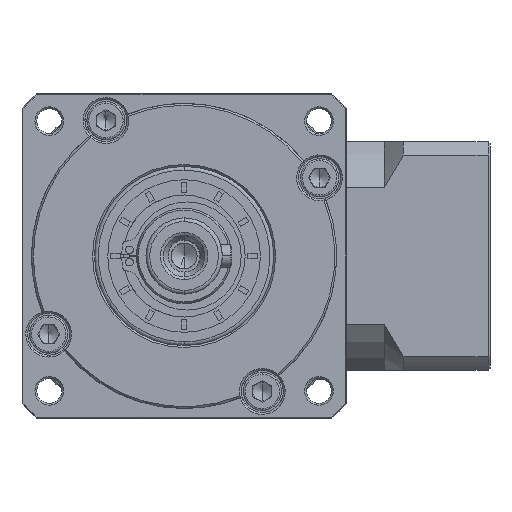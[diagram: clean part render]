
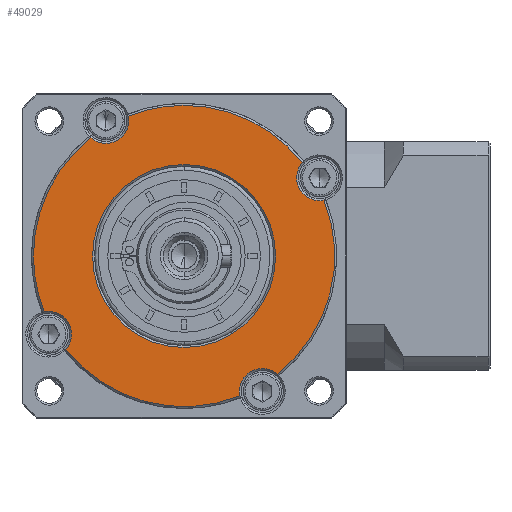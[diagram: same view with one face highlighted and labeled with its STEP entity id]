
A CAD part, left-side view. The second image highlights one B-rep face of the part: STEP entity #49029.
In plain terms, the highlighted planar face has unit normal (-1, 0, 0).
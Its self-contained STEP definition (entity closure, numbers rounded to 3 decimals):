
#1847 = DIRECTION ( 'NONE',  ( 0., 1., 0. ) ) ;
#3222 = CARTESIAN_POINT ( 'NONE',  ( -126.92, 30.497, -84.869 ) ) ;
#3753 = VERTEX_POINT ( 'NONE', #92476 ) ;
#4081 = ORIENTED_EDGE ( 'NONE', *, *, #55018, .T. ) ;
#4862 = EDGE_CURVE ( 'NONE', #147428, #77542, #70900, .T. ) ;
#5641 = EDGE_CURVE ( 'NONE', #57463, #121534, #62446, .T. ) ;
#6869 = DIRECTION ( 'NONE',  ( 0., 1., 0. ) ) ;
#9596 = CIRCLE ( 'NONE', #78423, 39.5 ) ;
#11900 = DIRECTION ( 'NONE',  ( 0., 0., -1. ) ) ;
#12162 = ORIENTED_EDGE ( 'NONE', *, *, #4862, .F. ) ;
#13001 = EDGE_CURVE ( 'NONE', #3753, #137477, #104598, .T. ) ;
#13103 = ORIENTED_EDGE ( 'NONE', *, *, #156053, .T. ) ;
#18829 = CARTESIAN_POINT ( 'NONE',  ( -126.92, -18.442, -146.885 ) ) ;
#24107 = EDGE_CURVE ( 'NONE', #78618, #60927, #97192, .T. ) ;
#24936 = ORIENTED_EDGE ( 'NONE', *, *, #110207, .T. ) ;
#25035 = CARTESIAN_POINT ( 'NONE',  ( -126.92, 6.028, -115.877 ) ) ;
#25513 = ORIENTED_EDGE ( 'NONE', *, *, #24107, .T. ) ;
#27885 = ORIENTED_EDGE ( 'NONE', *, *, #56757, .F. ) ;
#27905 = CARTESIAN_POINT ( 'NONE',  ( -126.92, 41.535, -136.377 ) ) ;
#29971 = CARTESIAN_POINT ( 'NONE',  ( -126.92, -8.591, -152.572 ) ) ;
#30651 = CIRCLE ( 'NONE', #148820, 39.5 ) ;
#31004 = EDGE_CURVE ( 'NONE', #60927, #78618, #62739, .T. ) ;
#34895 = AXIS2_PLACEMENT_3D ( 'NONE', #25035, #119897, #38668 ) ;
#35700 = CARTESIAN_POINT ( 'NONE',  ( -126.92, -24.98, -91.407 ) ) ;
#35850 = CIRCLE ( 'NONE', #117960, 6. ) ;
#36407 = EDGE_LOOP ( 'NONE', ( #80584, #25513 ) ) ;
#36444 = VERTEX_POINT ( 'NONE', #131458 ) ;
#36539 = DIRECTION ( 'NONE',  ( 1., 0., 0. ) ) ;
#36993 = AXIS2_PLACEMENT_3D ( 'NONE', #74804, #169638, #88457 ) ;
#37992 = CARTESIAN_POINT ( 'NONE',  ( -126.92, -29.479, -95.377 ) ) ;
#38668 = DIRECTION ( 'NONE',  ( 0., 0., 1. ) ) ;
#41540 = DIRECTION ( 'NONE',  ( 0., 0., -1. ) ) ;
#42846 = EDGE_CURVE ( 'NONE', #104592, #113947, #30651, .T. ) ;
#48371 = FACE_OUTER_BOUND ( 'NONE', #106034, .T. ) ;
#49029 = ADVANCED_FACE ( 'NONE', ( #48371, #120582 ), #151596, .T. ) ;
#49524 = AXIS2_PLACEMENT_3D ( 'NONE', #174439, #93234, #11900 ) ;
#49966 = DIRECTION ( 'NONE',  ( 1., 0., 0. ) ) ;
#51605 = DIRECTION ( 'NONE',  ( 0., 0., -1. ) ) ;
#52726 = ORIENTED_EDGE ( 'NONE', *, *, #13001, .F. ) ;
#55018 = EDGE_CURVE ( 'NONE', #36444, #172775, #113377, .T. ) ;
#55786 = DIRECTION ( 'NONE',  ( 1., 0., 0. ) ) ;
#56757 = EDGE_CURVE ( 'NONE', #126135, #57463, #116813, .T. ) ;
#57463 = VERTEX_POINT ( 'NONE', #98377 ) ;
#57536 = AXIS2_PLACEMENT_3D ( 'NONE', #117785, #36539, #131350 ) ;
#58848 = CARTESIAN_POINT ( 'NONE',  ( -126.92, -17.972, -115.877 ) ) ;
#60355 = AXIS2_PLACEMENT_3D ( 'NONE', #151299, #70153, #165018 ) ;
#60927 = VERTEX_POINT ( 'NONE', #58848 ) ;
#61572 = DIRECTION ( 'NONE',  ( 1., 0., 0. ) ) ;
#62446 = CIRCLE ( 'NONE', #34895, 39.5 ) ;
#62499 = CIRCLE ( 'NONE', #161109, 6. ) ;
#62739 = CIRCLE ( 'NONE', #90528, 24. ) ;
#63085 = CARTESIAN_POINT ( 'NONE',  ( -126.92, 26.528, -80.37 ) ) ;
#64741 = AXIS2_PLACEMENT_3D ( 'NONE', #164329, #83090, #1847 ) ;
#70153 = DIRECTION ( 'NONE',  ( 1., 0., 0. ) ) ;
#70900 = CIRCLE ( 'NONE', #57536, 39.5 ) ;
#71058 = CARTESIAN_POINT ( 'NONE',  ( -126.92, 6.028, -115.877 ) ) ;
#71275 = CARTESIAN_POINT ( 'NONE',  ( -126.92, -30.667, -101.258 ) ) ;
#72018 = CARTESIAN_POINT ( 'NONE',  ( -126.92, 6.028, -115.877 ) ) ;
#72487 = CIRCLE ( 'NONE', #82400, 6. ) ;
#74804 = CARTESIAN_POINT ( 'NONE',  ( -126.92, 6.028, -115.877 ) ) ;
#76116 = AXIS2_PLACEMENT_3D ( 'NONE', #71058, #165866, #84634 ) ;
#76771 = DIRECTION ( 'NONE',  ( 0., 0., -1. ) ) ;
#77542 = VERTEX_POINT ( 'NONE', #18829 ) ;
#78423 = AXIS2_PLACEMENT_3D ( 'NONE', #169358, #88182, #6869 ) ;
#78618 = VERTEX_POINT ( 'NONE', #144980 ) ;
#80584 = ORIENTED_EDGE ( 'NONE', *, *, #31004, .T. ) ;
#82400 = AXIS2_PLACEMENT_3D ( 'NONE', #142751, #61572, #156369 ) ;
#83090 = DIRECTION ( 'NONE',  ( 1., 0., 0. ) ) ;
#84634 = DIRECTION ( 'NONE',  ( 0., 0., -1. ) ) ;
#85631 = DIRECTION ( 'NONE',  ( 0., 0., 1. ) ) ;
#88182 = DIRECTION ( 'NONE',  ( 1., 0., 0. ) ) ;
#88223 = CARTESIAN_POINT ( 'NONE',  ( -126.92, 45.528, -115.877 ) ) ;
#88457 = DIRECTION ( 'NONE',  ( 0., -1., 0. ) ) ;
#88753 = CARTESIAN_POINT ( 'NONE',  ( -126.92, -29.479, -101.377 ) ) ;
#90528 = AXIS2_PLACEMENT_3D ( 'NONE', #131190, #49966, #144839 ) ;
#92476 = CARTESIAN_POINT ( 'NONE',  ( -126.92, 42.723, -130.496 ) ) ;
#93234 = DIRECTION ( 'NONE',  ( 1., 0., 0. ) ) ;
#97192 = CIRCLE ( 'NONE', #36993, 24. ) ;
#97985 = VERTEX_POINT ( 'NONE', #88753 ) ;
#98377 = CARTESIAN_POINT ( 'NONE',  ( -126.92, 6.028, -76.377 ) ) ;
#102614 = CARTESIAN_POINT ( 'NONE',  ( -126.92, 20.647, -79.181 ) ) ;
#104592 = VERTEX_POINT ( 'NONE', #29971 ) ;
#104598 = CIRCLE ( 'NONE', #64741, 39.5 ) ;
#105736 = EDGE_CURVE ( 'NONE', #137477, #172775, #9596, .T. ) ;
#106034 = EDGE_LOOP ( 'NONE', ( #27885, #24936, #4081, #130589, #52726, #138511, #163224, #114019, #12162, #167753, #13103, #173402 ) ) ;
#106532 = AXIS2_PLACEMENT_3D ( 'NONE', #63085, #157937, #76771 ) ;
#110157 = EDGE_CURVE ( 'NONE', #3753, #113947, #35850, .T. ) ;
#110207 = EDGE_CURVE ( 'NONE', #126135, #36444, #139761, .T. ) ;
#113377 = CIRCLE ( 'NONE', #106532, 6. ) ;
#113947 = VERTEX_POINT ( 'NONE', #157019 ) ;
#114019 = ORIENTED_EDGE ( 'NONE', *, *, #124385, .T. ) ;
#116813 = CIRCLE ( 'NONE', #60355, 39.5 ) ;
#117785 = CARTESIAN_POINT ( 'NONE',  ( -126.92, 6.028, -115.877 ) ) ;
#117960 = AXIS2_PLACEMENT_3D ( 'NONE', #27905, #122773, #41540 ) ;
#119897 = DIRECTION ( 'NONE',  ( 1., 0., 0. ) ) ;
#120582 = FACE_BOUND ( 'NONE', #36407, .T. ) ;
#121534 = VERTEX_POINT ( 'NONE', #35700 ) ;
#122773 = DIRECTION ( 'NONE',  ( 1., 0., 0. ) ) ;
#124385 = EDGE_CURVE ( 'NONE', #104592, #77542, #72487, .T. ) ;
#126135 = VERTEX_POINT ( 'NONE', #102614 ) ;
#127024 = AXIS2_PLACEMENT_3D ( 'NONE', #136985, #55786, #150557 ) ;
#130589 = ORIENTED_EDGE ( 'NONE', *, *, #105736, .F. ) ;
#131190 = CARTESIAN_POINT ( 'NONE',  ( -126.92, 6.028, -115.877 ) ) ;
#131350 = DIRECTION ( 'NONE',  ( 0., 0., 1. ) ) ;
#131458 = CARTESIAN_POINT ( 'NONE',  ( -126.92, 26.528, -86.37 ) ) ;
#132803 = DIRECTION ( 'NONE',  ( 1., 0., 0. ) ) ;
#136985 = CARTESIAN_POINT ( 'NONE',  ( -126.92, 26.528, -80.37 ) ) ;
#137477 = VERTEX_POINT ( 'NONE', #88223 ) ;
#138511 = ORIENTED_EDGE ( 'NONE', *, *, #110157, .T. ) ;
#139761 = CIRCLE ( 'NONE', #127024, 6. ) ;
#142751 = CARTESIAN_POINT ( 'NONE',  ( -126.92, -14.472, -151.384 ) ) ;
#144839 = DIRECTION ( 'NONE',  ( 0., -1., 0. ) ) ;
#144980 = CARTESIAN_POINT ( 'NONE',  ( -126.92, 30.028, -115.877 ) ) ;
#147428 = VERTEX_POINT ( 'NONE', #71275 ) ;
#148820 = AXIS2_PLACEMENT_3D ( 'NONE', #72018, #166856, #85631 ) ;
#150557 = DIRECTION ( 'NONE',  ( 0., 0., -1. ) ) ;
#151299 = CARTESIAN_POINT ( 'NONE',  ( -126.92, 6.028, -115.877 ) ) ;
#151596 = PLANE ( 'NONE',  #76116 ) ;
#156053 = EDGE_CURVE ( 'NONE', #97985, #121534, #62499, .T. ) ;
#156369 = DIRECTION ( 'NONE',  ( 0., 0., -1. ) ) ;
#157019 = CARTESIAN_POINT ( 'NONE',  ( -126.92, 37.036, -140.346 ) ) ;
#157937 = DIRECTION ( 'NONE',  ( 1., 0., 0. ) ) ;
#161109 = AXIS2_PLACEMENT_3D ( 'NONE', #37992, #132803, #51605 ) ;
#163224 = ORIENTED_EDGE ( 'NONE', *, *, #42846, .F. ) ;
#164329 = CARTESIAN_POINT ( 'NONE',  ( -126.92, 6.028, -115.877 ) ) ;
#165018 = DIRECTION ( 'NONE',  ( 0., 0., 1. ) ) ;
#165866 = DIRECTION ( 'NONE',  ( -1., 0., 0. ) ) ;
#166670 = CIRCLE ( 'NONE', #49524, 6. ) ;
#166856 = DIRECTION ( 'NONE',  ( 1., 0., 0. ) ) ;
#167753 = ORIENTED_EDGE ( 'NONE', *, *, #173653, .T. ) ;
#169358 = CARTESIAN_POINT ( 'NONE',  ( -126.92, 6.028, -115.877 ) ) ;
#169638 = DIRECTION ( 'NONE',  ( 1., 0., 0. ) ) ;
#172775 = VERTEX_POINT ( 'NONE', #3222 ) ;
#173402 = ORIENTED_EDGE ( 'NONE', *, *, #5641, .F. ) ;
#173653 = EDGE_CURVE ( 'NONE', #147428, #97985, #166670, .T. ) ;
#174439 = CARTESIAN_POINT ( 'NONE',  ( -126.92, -29.479, -95.377 ) ) ;
